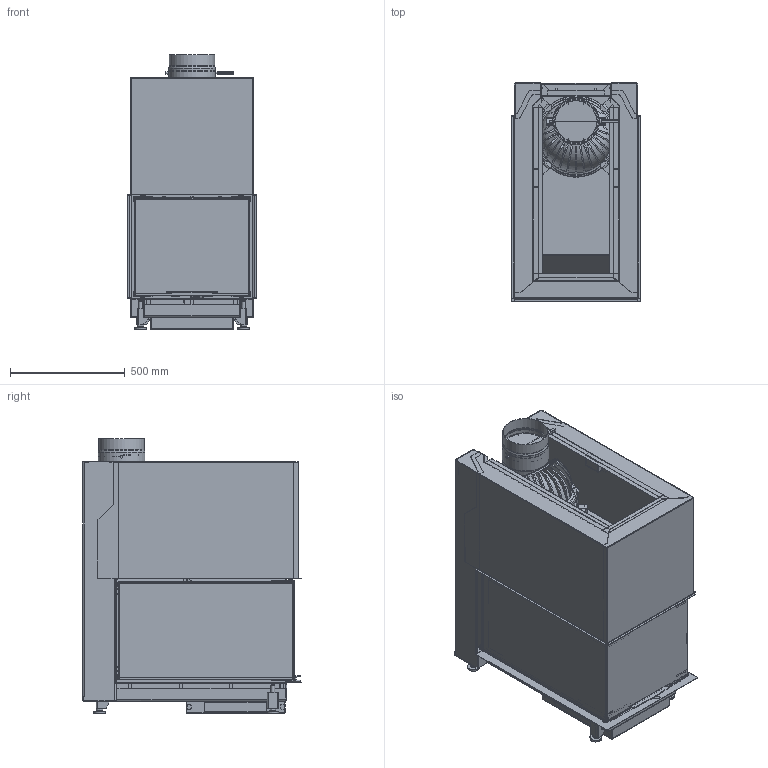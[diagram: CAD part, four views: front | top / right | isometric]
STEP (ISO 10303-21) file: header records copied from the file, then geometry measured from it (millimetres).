
FILE_DESCRIPTION(/* description */ (''),/* implementation_level */ '2;1');
FILE_NAME(/* name */ 'C:\ADSK_DM_WS\CAD_3D\03 Geraete\RIII 45x56x80\Zeichnungen\RIII 45x56x80 Gen.2 ohne Mantel Abgang oben CAD Planung defriten 2021-03197 211124.stp',/* time_stamp */ '2021-11-24T09:55:53+01:00',/* author */ ('CPI'),/* organization */ (''),/* preprocessor_version */ 'ST-DEVELOPER v18.1',/* originating_system */ 'Autodesk Inventor 2022',/* authorisation */ '');
FILE_SCHEMA (('AUTOMOTIVE_DESIGN { 1 0 10303 214 3 1 1 }'));
Products named in the file (8): 2021-03197; 2021-03183; 2021-03189; 2021-03187; 2021-03193; 2021-03191; 2021-03174; 2018-00985
Assembly tree (7 placements, depth 2):
  2021-03197
    2021-03183
    2021-03189
    2021-03187
    2021-03193
    2021-03191
    2021-03174
    2018-00985
Bounding box: 560 x 952 x 1199 mm (x, y, z)
Volume: 20781156.4 mm3; surface area: 17746998.5 mm2
Topology: 18 solids, 33 shells, 7641 faces, 21141 edges, 13341 vertices
Faces by surface type: plane 4638, cylinder 2619, bspline 225, cone 97, torus 61, sphere 1
Full cylindrical faces by diameter (mm): 3.242 x6, 4.8 x1, 6 x3, 7.5 x8, 7.9 x2, 10 x10, 10.21 x4, 12 x4, 16 x10, 20 x4, 30 x4, 163 x1, 194 x1, 198 x1, 200 x1, 204 x1, 333 x1, 339 x1
Entity records: 256247 total; most frequent: CARTESIAN_POINT 54465, ORIENTED_EDGE 42200, DIRECTION 41180, EDGE_CURVE 21157, LINE 14024, VECTOR 14024, AXIS2_PLACEMENT_3D 13578, VERTEX_POINT 13341
